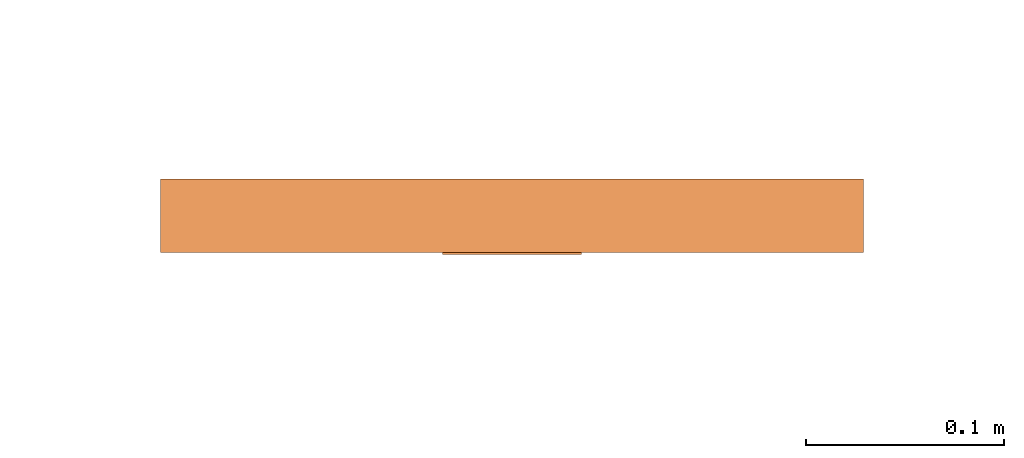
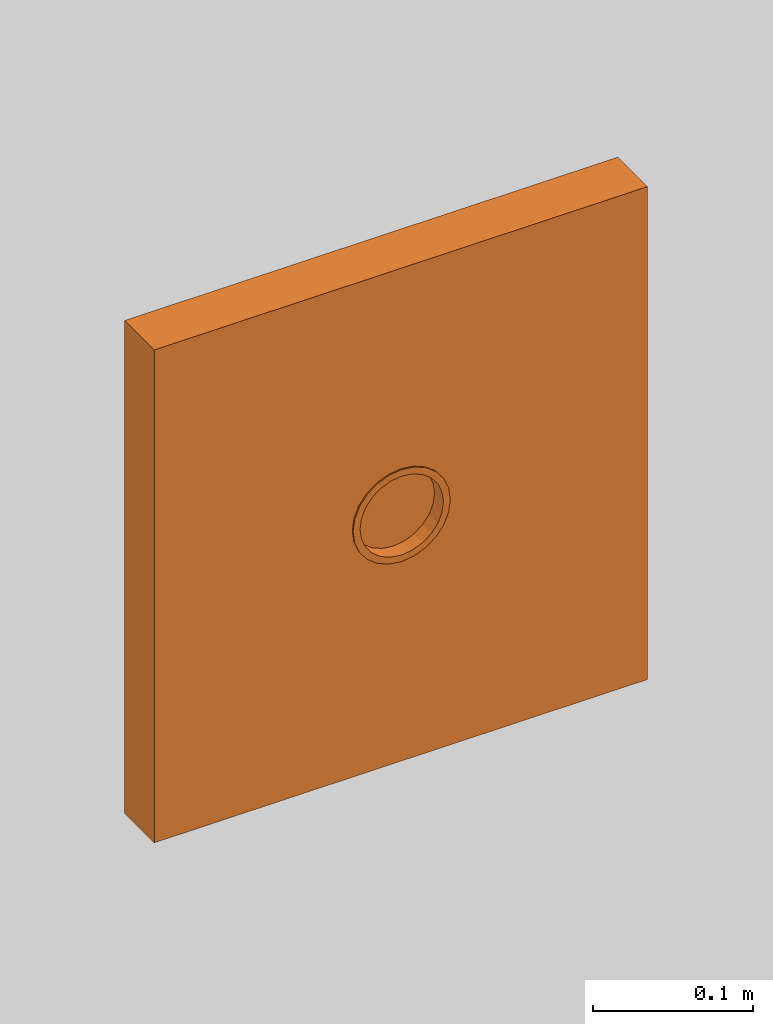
# One storey, part 89 of 197: 1 proxy.
"""IFC2X3 building model written with IfcOpenShell, lengths in metres."""

from ifc_helpers import new_model, entity, si_unit, converted_unit, direction, frame, origin, place, context, subcontext, project, spatial, faceted_brep, source, transform, mapped, material, material_list, type_object, type_shapes, element, save


model = new_model("IFC2X3")

# Units and contexts
model_context = context("Model", 3, precision=1e-05, world=origin(), true_north=direction((6.123031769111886e-17, 1.0)))
body_context = subcontext(model_context, "Body", "Model", "MODEL_VIEW")
ifc_project = project(units=[si_unit("LENGTHUNIT", "METRE"), converted_unit("PLANEANGLEUNIT", "DEGREE", entity("IfcPlaneAngleMeasure", 0.017453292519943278), si_unit("PLANEANGLEUNIT", "RADIAN"), dimensions=[0, 0, 0, 0, 0, 0, 0]), si_unit("AREAUNIT", "SQUARE_METRE")], contexts=[model_context])

# Site, building, storey
site_placement = place(None, origin())
site = spatial("IfcSite", under=ifc_project, at=site_placement, Name="Default", CompositionType="ELEMENT")
building_placement = place(site_placement, origin())
building = spatial("IfcBuilding", under=site, at=building_placement, CompositionType="ELEMENT")
storey_placement = place(building_placement, origin())
storey = spatial("IfcBuildingStorey", under=building, at=storey_placement, Name="Niveau 0", CompositionType="ELEMENT", Elevation=0.0)

# Proxy
ifc_material_1 = material(Name="BETCE-ANNEAU-CHROME")
ifc_material_2 = material(Name="BETCE-TABLEAU-BLANC")
ifc_material_list = material_list([ifc_material_1, ifc_material_2])
building_element_proxy_type = type_object("IfcBuildingElementProxyType", Name="Coffret mural 18 modules avec porte:36M-2R", PredefinedType="NOTDEFINED", material=ifc_material_list)
shared_shape = source(origin(), body_context, "Body", "Brep", [
    faceted_brep([(0.014999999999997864, -0.14149999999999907, -0.8384807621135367), (0.017499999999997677, -0.14149999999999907, -0.8428108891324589), (0.0211243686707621, -0.14149999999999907, -0.840029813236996), (0.011382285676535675, -0.14149999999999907, -0.839979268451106), (0.02474873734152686, -0.14149999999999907, -0.8372487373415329), (0.018106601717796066, -0.14149999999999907, -0.8360969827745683), (0.007764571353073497, -0.14149999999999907, -0.8414777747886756), (0.013279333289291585, -0.14149999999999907, -0.84455914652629), (0.009058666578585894, -0.14149999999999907, -0.8463074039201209), (0.0038822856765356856, -0.14149999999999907, -0.8419888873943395), (0.0, -0.14149999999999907, -0.8425000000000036), (0.004529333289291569, -0.14149999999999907, -0.8469037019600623), (0.0, -0.14149999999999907, -0.8475000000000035), (-0.0038822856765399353, -0.14149999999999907, -0.8419888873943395), (-0.007764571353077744, -0.14149999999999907, -0.8414777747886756), (-0.004529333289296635, -0.14149999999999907, -0.8469037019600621), (-0.009058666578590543, -0.14149999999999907, -0.8463074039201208), (-0.011382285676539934, -0.14149999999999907, -0.8399792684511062), (-0.01500000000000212, -0.14149999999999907, -0.8384807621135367), (-0.013279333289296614, -0.14149999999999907, -0.8445591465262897), (-0.017500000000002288, -0.14149999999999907, -0.8428108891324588), (-0.018106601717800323, -0.14149999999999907, -0.8360969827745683), (-0.02121320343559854, -0.14149999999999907, -0.8337132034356), (-0.021124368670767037, -0.14149999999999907, -0.8400298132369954), (-0.02474873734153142, -0.14149999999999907, -0.8372487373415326), (-0.023596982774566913, -0.14149999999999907, -0.8306066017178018), (-0.02598076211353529, -0.14149999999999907, -0.8275000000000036), (-0.027529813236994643, -0.14149999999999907, -0.8336243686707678), (-0.03031088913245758, -0.14149999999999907, -0.8300000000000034), (-0.027479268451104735, -0.14149999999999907, -0.8238822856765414), (-0.02897777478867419, -0.14149999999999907, -0.8202645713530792), (-0.03205914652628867, -0.14149999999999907, -0.8257793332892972), (-0.03380740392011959, -0.14149999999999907, -0.8215586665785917), (-0.02948888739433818, -0.14149999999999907, -0.8163822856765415), (-0.03000000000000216, -0.14149999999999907, -0.8125000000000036), (-0.034159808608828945, -0.14149999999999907, -0.818881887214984), (-0.03500000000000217, -0.14149999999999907, -0.8125000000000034), (-0.029611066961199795, -0.14149999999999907, -0.8095457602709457), (-0.028977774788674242, -0.14149999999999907, -0.8047354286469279), (-0.034403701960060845, -0.14149999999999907, -0.8079706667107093), (-0.03380740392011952, -0.14149999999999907, -0.8034413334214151), (-0.02747926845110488, -0.14149999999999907, -0.801117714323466), (-0.02598076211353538, -0.14149999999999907, -0.7975000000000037), (-0.0320591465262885, -0.14149999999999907, -0.7992206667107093), (-0.03031088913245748, -0.14149999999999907, -0.7950000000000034), (-0.027529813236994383, -0.14149999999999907, -0.7913756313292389), (-0.024748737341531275, -0.14149999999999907, -0.7877512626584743), (-0.02359698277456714, -0.14149999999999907, -0.7943933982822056), (-0.021213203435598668, -0.14149999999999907, -0.7912867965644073), (-0.021124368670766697, -0.14149999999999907, -0.7849701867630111), (-0.017500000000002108, -0.14149999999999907, -0.782189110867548), (-0.01810660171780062, -0.14149999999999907, -0.788903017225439), (-0.01500000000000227, -0.14149999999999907, -0.7865192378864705), (-0.013279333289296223, -0.14149999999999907, -0.7804408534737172), (-0.009058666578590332, -0.14149999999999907, -0.7786925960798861), (-0.011382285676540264, -0.14149999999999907, -0.785020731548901), (-0.007764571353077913, -0.14149999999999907, -0.7835222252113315), (-0.004529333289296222, -0.14149999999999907, -0.7780962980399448), (0.0, -0.14149999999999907, -0.7775000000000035), (-0.0038822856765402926, -0.14149999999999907, -0.7830111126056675), (0.0, -0.14149999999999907, -0.7825000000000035), (0.004529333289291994, -0.14149999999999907, -0.7780962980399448), (0.009058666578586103, -0.14149999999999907, -0.7786925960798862), (0.003882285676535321, -0.14149999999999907, -0.7830111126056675), (0.007764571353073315, -0.14149999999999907, -0.7835222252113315), (0.013279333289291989, -0.14149999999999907, -0.7804408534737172), (0.017499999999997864, -0.14149999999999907, -0.7821891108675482), (0.011382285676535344, -0.14149999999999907, -0.7850207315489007), (0.014999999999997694, -0.14149999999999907, -0.7865192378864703), (0.021124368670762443, -0.14149999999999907, -0.7849701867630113), (0.02474873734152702, -0.14149999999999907, -0.7877512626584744), (0.018106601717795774, -0.14149999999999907, -0.7889030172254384), (0.02121320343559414, -0.14149999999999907, -0.7912867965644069), (0.02752981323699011, -0.14149999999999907, -0.7913756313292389), (0.0303108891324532, -0.14149999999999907, -0.7950000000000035), (0.023596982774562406, -0.14149999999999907, -0.794393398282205), (0.025980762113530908, -0.14149999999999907, -0.7975000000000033), (0.032059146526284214, -0.14149999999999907, -0.7992206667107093), (0.03380740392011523, -0.14149999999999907, -0.8034413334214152), (0.027479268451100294, -0.14149999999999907, -0.8011177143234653), (0.028977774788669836, -0.14149999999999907, -0.8047354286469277), (0.034159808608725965, -0.14149999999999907, -0.8061181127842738), (0.03499999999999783, -0.14149999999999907, -0.8125000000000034), (0.029488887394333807, -0.14149999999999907, -0.8086177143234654), (0.029999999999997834, -0.14149999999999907, -0.8125000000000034), (0.034403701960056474, -0.14149999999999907, -0.817029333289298), (0.033807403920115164, -0.14149999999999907, -0.8215586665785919), (0.029611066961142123, -0.14149999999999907, -0.8154542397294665), (0.02897777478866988, -0.14149999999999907, -0.8202645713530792), (0.03205914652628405, -0.14149999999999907, -0.8257793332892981), (0.030310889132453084, -0.14149999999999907, -0.8300000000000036), (0.027479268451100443, -0.14149999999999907, -0.8238822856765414), (0.025980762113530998, -0.14149999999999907, -0.8275000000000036), (0.023596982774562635, -0.14149999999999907, -0.8306066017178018), (0.021213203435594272, -0.14149999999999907, -0.8337132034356), (0.02752981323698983, -0.14149999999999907, -0.8336243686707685), (0.014999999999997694, -0.14049999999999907, -0.7865192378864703), (0.017499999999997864, -0.14049999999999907, -0.7821891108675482), (0.021124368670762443, -0.14049999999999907, -0.7849701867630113), (0.011382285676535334, -0.14049999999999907, -0.7850207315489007), (0.02474873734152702, -0.14049999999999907, -0.7877512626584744), (0.018106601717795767, -0.14049999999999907, -0.7889030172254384), (0.007764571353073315, -0.14049999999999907, -0.7835222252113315), (0.013279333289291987, -0.14049999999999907, -0.7804408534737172), (0.009058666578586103, -0.14049999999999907, -0.7786925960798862), (0.003882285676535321, -0.14049999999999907, -0.7830111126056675), (0.0, -0.14049999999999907, -0.7825000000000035), (0.0045293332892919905, -0.14049999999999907, -0.7780962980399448), (0.0, -0.14049999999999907, -0.7775000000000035), (-0.003882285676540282, -0.14049999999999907, -0.7830111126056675), (-0.007764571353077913, -0.14049999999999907, -0.7835222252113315), (-0.004529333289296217, -0.14049999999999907, -0.7780962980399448), (-0.009058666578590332, -0.14049999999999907, -0.7786925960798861), (-0.011382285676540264, -0.14049999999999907, -0.785020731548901), (-0.01500000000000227, -0.14049999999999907, -0.7865192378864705), (-0.013279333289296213, -0.14049999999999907, -0.7804408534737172), (-0.017500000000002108, -0.14049999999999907, -0.782189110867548), (-0.01810660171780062, -0.14049999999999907, -0.788903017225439), (-0.021213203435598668, -0.14049999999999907, -0.7912867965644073), (-0.02112436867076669, -0.14049999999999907, -0.7849701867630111), (-0.024748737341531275, -0.14049999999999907, -0.7877512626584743), (-0.02359698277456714, -0.14049999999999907, -0.7943933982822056), (-0.02598076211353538, -0.14049999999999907, -0.7975000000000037), (-0.027529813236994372, -0.14049999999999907, -0.7913756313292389), (-0.03031088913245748, -0.14049999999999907, -0.7950000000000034), (-0.02747926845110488, -0.14049999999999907, -0.8011177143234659), (-0.028977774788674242, -0.14049999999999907, -0.8047354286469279), (-0.0320591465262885, -0.14049999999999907, -0.7992206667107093), (-0.03380740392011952, -0.14049999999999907, -0.8034413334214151), (-0.02948888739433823, -0.14049999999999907, -0.808617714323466), (-0.03000000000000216, -0.14049999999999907, -0.8125000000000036), (-0.034403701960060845, -0.14049999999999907, -0.8079706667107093), (-0.03500000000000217, -0.14049999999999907, -0.8125000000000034), (-0.02961106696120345, -0.14049999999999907, -0.8154542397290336), (-0.02897777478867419, -0.14049999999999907, -0.8202645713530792), (-0.0344037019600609, -0.14049999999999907, -0.8170293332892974), (-0.03380740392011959, -0.14049999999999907, -0.8215586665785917), (-0.027479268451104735, -0.14049999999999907, -0.8238822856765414), (-0.02598076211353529, -0.14049999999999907, -0.8275000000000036), (-0.03205914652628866, -0.14049999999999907, -0.8257793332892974), (-0.03031088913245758, -0.14049999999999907, -0.8300000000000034), (-0.027529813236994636, -0.14049999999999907, -0.8336243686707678), (-0.02474873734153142, -0.14049999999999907, -0.8372487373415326), (-0.02359698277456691, -0.14049999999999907, -0.8306066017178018), (-0.02121320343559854, -0.14049999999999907, -0.8337132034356), (-0.02112436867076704, -0.14049999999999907, -0.8400298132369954), (-0.017500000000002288, -0.14049999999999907, -0.8428108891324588), (-0.018106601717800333, -0.14049999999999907, -0.8360969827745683), (-0.01500000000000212, -0.14049999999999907, -0.8384807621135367), (-0.013279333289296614, -0.14049999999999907, -0.8445591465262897), (-0.009058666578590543, -0.14049999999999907, -0.8463074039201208), (-0.011382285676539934, -0.14049999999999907, -0.8399792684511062), (-0.007764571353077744, -0.14049999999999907, -0.8414777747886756), (-0.004529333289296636, -0.14049999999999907, -0.8469037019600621), (0.0, -0.14049999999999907, -0.8475000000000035), (-0.0038822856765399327, -0.14049999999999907, -0.8419888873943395), (0.0, -0.14049999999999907, -0.8425000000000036), (0.004529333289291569, -0.14049999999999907, -0.8469037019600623), (0.009058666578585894, -0.14049999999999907, -0.8463074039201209), (0.003882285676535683, -0.14049999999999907, -0.8419888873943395), (0.007764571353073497, -0.14049999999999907, -0.8414777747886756), (0.013279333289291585, -0.14049999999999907, -0.84455914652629), (0.017499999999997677, -0.14049999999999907, -0.8428108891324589), (0.011382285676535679, -0.14049999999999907, -0.839979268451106), (0.014999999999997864, -0.14049999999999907, -0.8384807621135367), (0.0211243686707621, -0.14049999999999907, -0.840029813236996), (0.02474873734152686, -0.14049999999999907, -0.8372487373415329), (0.018106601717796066, -0.14049999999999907, -0.8360969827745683), (0.021213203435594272, -0.14049999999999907, -0.8337132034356), (0.027529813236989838, -0.14049999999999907, -0.8336243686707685), (0.030310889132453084, -0.14049999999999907, -0.8300000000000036), (0.02359698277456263, -0.14049999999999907, -0.8306066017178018), (0.025980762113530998, -0.14049999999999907, -0.8275000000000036), (0.03205914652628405, -0.14049999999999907, -0.8257793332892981), (0.033807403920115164, -0.14049999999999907, -0.8215586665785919), (0.02747926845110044, -0.14049999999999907, -0.8238822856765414), (0.02897777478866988, -0.14049999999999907, -0.8202645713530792), (0.034403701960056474, -0.14049999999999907, -0.8170293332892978), (0.03499999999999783, -0.14049999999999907, -0.8125000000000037), (0.029488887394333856, -0.14049999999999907, -0.8163822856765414), (0.029999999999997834, -0.14049999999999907, -0.8125000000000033), (0.03440370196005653, -0.14049999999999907, -0.8079706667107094), (0.03380740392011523, -0.14049999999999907, -0.8034413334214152), (0.029611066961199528, -0.14049999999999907, -0.8095457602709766), (0.028977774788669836, -0.14049999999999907, -0.8047354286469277), (0.032059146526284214, -0.14049999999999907, -0.7992206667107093), (0.0303108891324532, -0.14049999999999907, -0.7950000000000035), (0.027479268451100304, -0.14049999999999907, -0.8011177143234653), (0.025980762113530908, -0.14049999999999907, -0.7975000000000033), (0.023596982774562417, -0.14049999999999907, -0.794393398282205), (0.02121320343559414, -0.14049999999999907, -0.7912867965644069), (0.027529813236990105, -0.14049999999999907, -0.7913756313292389)], [[[0, 1, 2]], [[1, 0, 3]], [[0, 2, 4]], [[4, 5, 0]], [[1, 3, 6]], [[6, 7, 1]], [[6, 8, 7]], [[8, 6, 9]], [[8, 9, 10]], [[10, 11, 8]], [[10, 12, 11]], [[12, 10, 13]], [[12, 13, 14]], [[14, 15, 12]], [[14, 16, 15]], [[16, 14, 17]], [[16, 17, 18]], [[18, 19, 16]], [[18, 20, 19]], [[20, 18, 21]], [[20, 21, 22]], [[22, 23, 20]], [[22, 24, 23]], [[24, 22, 25]], [[24, 25, 26]], [[26, 27, 24]], [[26, 28, 27]], [[28, 26, 29]], [[28, 29, 30]], [[30, 31, 28]], [[30, 32, 31]], [[32, 30, 33]], [[32, 33, 34]], [[34, 35, 32]], [[34, 36, 35]], [[36, 34, 37]], [[36, 37, 38]], [[38, 39, 36]], [[38, 40, 39]], [[40, 38, 41]], [[40, 41, 42]], [[42, 43, 40]], [[42, 44, 43]], [[42, 45, 44]], [[42, 46, 45]], [[46, 42, 47]], [[46, 47, 48]], [[48, 49, 46]], [[48, 50, 49]], [[50, 48, 51]], [[50, 51, 52]], [[52, 53, 50]], [[52, 54, 53]], [[54, 52, 55]], [[54, 55, 56]], [[56, 57, 54]], [[56, 58, 57]], [[58, 56, 59]], [[58, 59, 60]], [[60, 61, 58]], [[60, 62, 61]], [[62, 60, 63]], [[62, 63, 64]], [[64, 65, 62]], [[64, 66, 65]], [[66, 64, 67]], [[66, 67, 68]], [[68, 69, 66]], [[68, 70, 69]], [[70, 68, 71]], [[70, 71, 72]], [[72, 73, 70]], [[72, 74, 73]], [[74, 72, 75]], [[74, 75, 76]], [[76, 77, 74]], [[76, 78, 77]], [[78, 76, 79]], [[78, 79, 80]], [[80, 81, 78]], [[80, 82, 81]], [[82, 80, 83]], [[82, 83, 84]], [[84, 85, 82]], [[84, 86, 85]], [[86, 84, 87]], [[86, 87, 88]], [[88, 89, 86]], [[88, 90, 89]], [[90, 88, 91]], [[90, 91, 92]], [[90, 92, 93]], [[90, 93, 94]], [[4, 94, 5]], [[94, 4, 95]], [[94, 95, 90]], [[96, 97, 98]], [[97, 96, 99]], [[96, 98, 100]], [[100, 101, 96]], [[97, 99, 102]], [[102, 103, 97]], [[102, 104, 103]], [[104, 102, 105]], [[104, 105, 106]], [[106, 107, 104]], [[106, 108, 107]], [[108, 106, 109]], [[108, 109, 110]], [[110, 111, 108]], [[110, 112, 111]], [[112, 110, 113]], [[112, 113, 114]], [[114, 115, 112]], [[114, 116, 115]], [[116, 114, 117]], [[116, 117, 118]], [[118, 119, 116]], [[118, 120, 119]], [[120, 118, 121]], [[120, 121, 122]], [[122, 123, 120]], [[122, 124, 123]], [[124, 122, 125]], [[124, 125, 126]], [[126, 127, 124]], [[126, 128, 127]], [[128, 126, 129]], [[128, 129, 130]], [[130, 131, 128]], [[130, 132, 131]], [[132, 130, 133]], [[132, 133, 134]], [[134, 135, 132]], [[134, 136, 135]], [[136, 134, 137]], [[136, 137, 138]], [[138, 139, 136]], [[138, 140, 139]], [[138, 141, 140]], [[138, 142, 141]], [[142, 138, 143]], [[142, 143, 144]], [[144, 145, 142]], [[144, 146, 145]], [[146, 144, 147]], [[146, 147, 148]], [[148, 149, 146]], [[148, 150, 149]], [[150, 148, 151]], [[150, 151, 152]], [[152, 153, 150]], [[152, 154, 153]], [[154, 152, 155]], [[154, 155, 156]], [[156, 157, 154]], [[156, 158, 157]], [[158, 156, 159]], [[158, 159, 160]], [[160, 161, 158]], [[160, 162, 161]], [[162, 160, 163]], [[162, 163, 164]], [[164, 165, 162]], [[164, 166, 165]], [[166, 164, 167]], [[166, 167, 168]], [[168, 169, 166]], [[168, 170, 169]], [[170, 168, 171]], [[170, 171, 172]], [[172, 173, 170]], [[172, 174, 173]], [[174, 172, 175]], [[174, 175, 176]], [[176, 177, 174]], [[176, 178, 177]], [[178, 176, 179]], [[178, 179, 180]], [[180, 181, 178]], [[180, 182, 181]], [[182, 180, 183]], [[182, 183, 184]], [[184, 185, 182]], [[184, 186, 185]], [[186, 184, 187]], [[186, 187, 188]], [[186, 188, 189]], [[186, 189, 190]], [[100, 190, 101]], [[190, 100, 191]], [[190, 191, 186]], [[136, 32, 35, 36, 132, 135]], [[85, 86, 174, 177, 178, 82]], [[136, 139, 140, 28, 31, 32]], [[142, 145, 146, 20, 23, 24]], [[173, 174, 86, 89, 90, 170]], [[140, 141, 142, 24, 27, 28]], [[146, 149, 150, 16, 19, 20]], [[12, 15, 16, 150, 153, 154]], [[154, 157, 158, 8, 11, 12]], [[2, 1, 162, 165, 166, 4]], [[169, 170, 90, 95, 4, 166]], [[158, 161, 162, 1, 7, 8]], [[182, 78, 81, 82, 178, 181]], [[39, 40, 128, 131, 132, 36]], [[182, 185, 186, 74, 77, 78]], [[100, 98, 97, 66, 69, 70]], [[127, 128, 40, 43, 44, 124]], [[186, 191, 100, 70, 73, 74]], [[97, 103, 104, 62, 65, 66]], [[58, 61, 62, 104, 107, 108]], [[108, 111, 112, 54, 57, 58]], [[49, 50, 116, 119, 120, 46]], [[123, 124, 44, 45, 46, 120]], [[112, 115, 116, 50, 53, 54]], [[129, 126, 38, 37, 34, 130]], [[125, 122, 42, 41, 38, 126]], [[51, 48, 118, 117, 114, 52]], [[63, 60, 106, 105, 102, 64]], [[183, 180, 84, 83, 80, 184]], [[48, 47, 42, 122, 121, 118]], [[55, 52, 114, 113, 110, 56]], [[59, 56, 110, 109, 106, 60]], [[99, 96, 68, 67, 64, 102]], [[189, 188, 76, 75, 72, 190]], [[187, 184, 80, 79, 76, 188]], [[101, 190, 72, 71, 68, 96]], [[179, 176, 88, 87, 84, 180]], [[175, 172, 92, 91, 88, 176]], [[5, 94, 168, 167, 164, 0]], [[13, 10, 156, 155, 152, 14]], [[133, 130, 34, 33, 30, 134]], [[94, 93, 92, 172, 171, 168]], [[3, 0, 164, 163, 160, 6]], [[9, 6, 160, 159, 156, 10]], [[151, 148, 18, 17, 14, 152]], [[143, 138, 26, 25, 22, 144]], [[137, 134, 30, 29, 26, 138]], [[147, 144, 22, 21, 18, 148]]]),
    faceted_brep([(0.17750000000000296, -0.14049999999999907, -0.6250000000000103), (0.025980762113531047, -0.14049999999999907, -0.7975000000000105), (0.028977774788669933, -0.14049999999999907, -0.8047354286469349), (0.02121320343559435, -0.14049999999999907, -0.791286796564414), (0.02999999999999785, -0.14049999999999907, -0.8125000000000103), (0.014999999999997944, -0.14049999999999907, -0.7865192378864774), (0.007764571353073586, -0.14049999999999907, -0.7835222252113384), (0.0, -0.14049999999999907, -0.7825000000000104), (-0.17749999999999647, -0.14049999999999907, -0.6250000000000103), (0.17750000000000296, -0.14049999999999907, -1.0), (-0.007764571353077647, -0.14049999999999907, -0.7835222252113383), (-0.015000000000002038, -0.14049999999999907, -0.7865192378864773), (-0.021213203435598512, -0.14049999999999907, -0.7912867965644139), (-0.02598076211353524, -0.14049999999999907, -0.7975000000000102), (-0.028977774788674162, -0.14049999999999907, -0.8047354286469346), (-0.030000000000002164, -0.14049999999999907, -0.8125000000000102), (-0.17749999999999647, -0.14049999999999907, -1.0), (-0.028977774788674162, -0.14049999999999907, -0.8202645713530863), (-0.025980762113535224, -0.14049999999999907, -0.8275000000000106), (-0.021213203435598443, -0.14049999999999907, -0.833713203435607), (-0.015000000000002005, -0.14049999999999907, -0.8384807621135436), (-0.007764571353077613, -0.14049999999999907, -0.8414777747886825), (0.0, -0.14049999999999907, -0.8425000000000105), (0.028977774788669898, -0.14049999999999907, -0.820264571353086), (0.025980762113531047, -0.14049999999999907, -0.8275000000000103), (0.02121320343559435, -0.14049999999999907, -0.8337132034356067), (0.014999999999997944, -0.14049999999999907, -0.8384807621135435), (0.007764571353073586, -0.14049999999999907, -0.8414777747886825), (-0.17749999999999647, -0.10349999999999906, -1.0), (-0.17749999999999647, -0.10349999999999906, -0.6250000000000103), (0.17750000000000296, -0.10349999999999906, -0.6250000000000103), (0.17750000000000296, -0.10349999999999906, -1.0), (-0.015000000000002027, -0.13049999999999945, -0.8384807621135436), (-0.007764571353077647, -0.13049999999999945, -0.8414777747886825), (0.0, -0.13049999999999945, -0.8425000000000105), (0.007764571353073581, -0.13049999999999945, -0.8414777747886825), (0.014999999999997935, -0.13049999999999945, -0.8384807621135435), (0.02121320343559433, -0.13049999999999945, -0.8337132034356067), (0.025980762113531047, -0.13049999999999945, -0.8275000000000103), (0.028977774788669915, -0.13049999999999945, -0.820264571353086), (0.029999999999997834, -0.13049999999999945, -0.8125000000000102), (0.028977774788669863, -0.13049999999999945, -0.8047354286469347), (0.025980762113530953, -0.13049999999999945, -0.7975000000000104), (0.021213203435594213, -0.13049999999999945, -0.791286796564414), (0.014999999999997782, -0.13049999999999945, -0.7865192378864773), (0.007764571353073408, -0.13049999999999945, -0.7835222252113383), (0.0, -0.13049999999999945, -0.7825000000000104), (-0.007764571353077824, -0.13049999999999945, -0.7835222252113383), (-0.015000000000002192, -0.13049999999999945, -0.7865192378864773), (-0.021213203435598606, -0.13049999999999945, -0.791286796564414), (-0.02598076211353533, -0.13049999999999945, -0.7975000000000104), (-0.02897777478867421, -0.13049999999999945, -0.8047354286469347), (-0.030000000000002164, -0.13049999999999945, -0.8125000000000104), (-0.028977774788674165, -0.13049999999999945, -0.8202645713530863), (-0.025980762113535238, -0.13049999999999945, -0.8275000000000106), (-0.021213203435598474, -0.13049999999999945, -0.833713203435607)], [[[0, 1, 2]], [[1, 0, 3]], [[0, 2, 4]], [[5, 3, 0]], [[6, 5, 0]], [[7, 6, 0]], [[0, 8, 7]], [[4, 9, 0]], [[10, 7, 8]], [[11, 10, 8]], [[12, 11, 8]], [[8, 13, 12]], [[13, 8, 14]], [[15, 14, 8]], [[8, 16, 15]], [[17, 15, 16]], [[18, 17, 16]], [[16, 19, 18]], [[19, 16, 20]], [[21, 20, 16]], [[22, 21, 16]], [[22, 16, 9]], [[9, 4, 23]], [[9, 23, 24]], [[24, 25, 9]], [[25, 26, 9]], [[26, 27, 9]], [[9, 27, 22]], [[28, 29, 30, 31]], [[8, 0, 30, 29]], [[16, 8, 29, 28]], [[9, 16, 28, 31]], [[0, 9, 31, 30]], [[32, 33, 34, 35, 36, 37, 38, 39, 40, 41, 42, 43, 44, 45, 46, 47, 48, 49, 50, 51, 52, 53, 54, 55]], [[38, 24, 23, 39]], [[39, 23, 4, 40]], [[35, 27, 26, 36]], [[36, 26, 25, 37]], [[37, 25, 24, 38]], [[27, 35, 34, 22]], [[55, 19, 20, 32]], [[32, 20, 21, 33]], [[52, 15, 17, 53]], [[53, 17, 18, 54]], [[54, 18, 19, 55]], [[22, 34, 33, 21]], [[50, 13, 14, 51]], [[51, 14, 15, 52]], [[47, 10, 11, 48]], [[48, 11, 12, 49]], [[49, 12, 13, 50]], [[10, 47, 46, 7]], [[43, 3, 5, 44]], [[44, 5, 6, 45]], [[40, 4, 2, 41]], [[41, 2, 1, 42]], [[42, 1, 3, 43]], [[7, 46, 45, 6]]]),
])
type_shapes(building_element_proxy_type, [shared_shape])
proxy_placement = place(storey_placement, frame((-538.608595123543, -51.152644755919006, 2.0)))
element("IfcBuildingElementProxy", 1, at=proxy_placement, inside=storey, type_object=building_element_proxy_type, material=ifc_material_list, Name="Coffret mural 18 modules avec porte:36M-2R", ObjectType="Coffret mural 18 modules avec porte:36M-2R", context=body_context, shape_type="MappedRepresentation", body=[
    mapped(shared_shape, transform((0.0, 0.0, 0.0), scale=1.0)),
])

save(model, "model.ifc")
